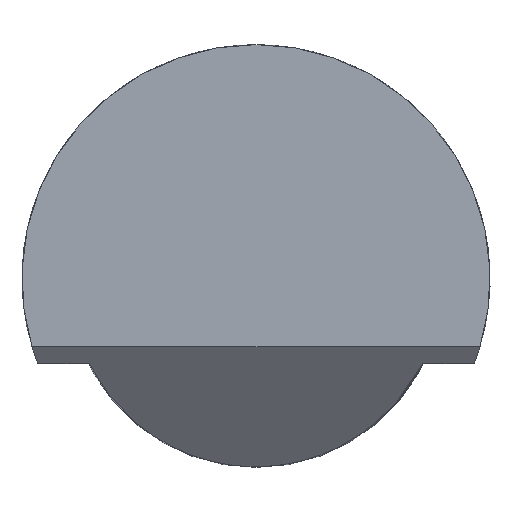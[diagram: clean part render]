
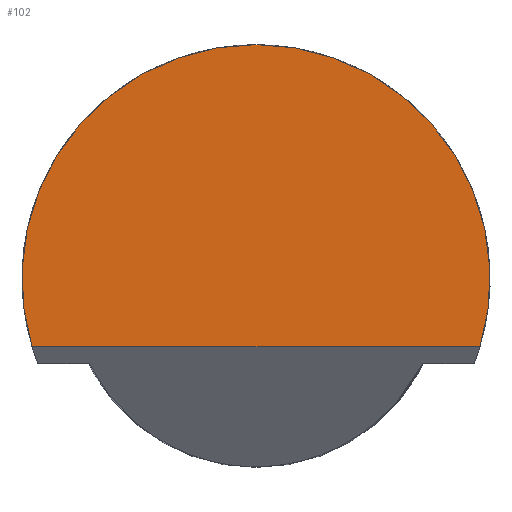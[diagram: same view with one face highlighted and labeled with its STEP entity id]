
A CAD part, top view. The second image highlights one B-rep face of the part: STEP entity #102.
In plain terms, the highlighted planar face has unit normal (0, 0, 1).
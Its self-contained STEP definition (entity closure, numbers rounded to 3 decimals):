
#20=CIRCLE('',#135,25.);
#27=FACE_OUTER_BOUND('',#33,.T.);
#33=EDGE_LOOP('',(#90,#91));
#35=LINE('',#181,#39);
#39=VECTOR('',#145,10.);
#46=VERTEX_POINT('',#177);
#48=VERTEX_POINT('',#180);
#56=EDGE_CURVE('',#48,#46,#35,.T.);
#67=EDGE_CURVE('',#46,#48,#20,.T.);
#90=ORIENTED_EDGE('',*,*,#56,.T.);
#91=ORIENTED_EDGE('',*,*,#67,.T.);
#96=PLANE('',#137);
#102=ADVANCED_FACE('',(#27),#96,.T.);
#135=AXIS2_PLACEMENT_3D('',#200,#167,#168);
#137=AXIS2_PLACEMENT_3D('',#202,#171,#172);
#145=DIRECTION('',(1.,0.,0.));
#167=DIRECTION('center_axis',(0.,0.,1.));
#168=DIRECTION('ref_axis',(1.,0.,0.));
#171=DIRECTION('center_axis',(0.,0.,1.));
#172=DIRECTION('ref_axis',(1.,0.,0.));
#177=CARTESIAN_POINT('',(23.922,-7.261,85.));
#180=CARTESIAN_POINT('',(-23.922,-7.261,85.));
#181=CARTESIAN_POINT('',(0.,-7.261,85.));
#200=CARTESIAN_POINT('Origin',(0.,0.,85.));
#202=CARTESIAN_POINT('Origin',(0.,0.,85.));
